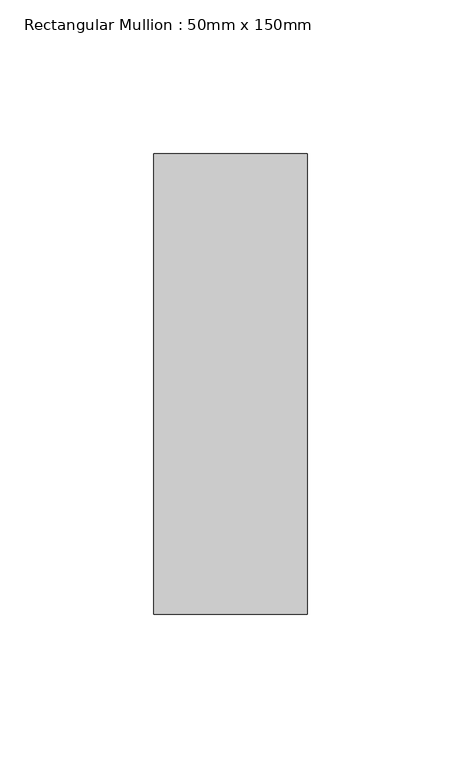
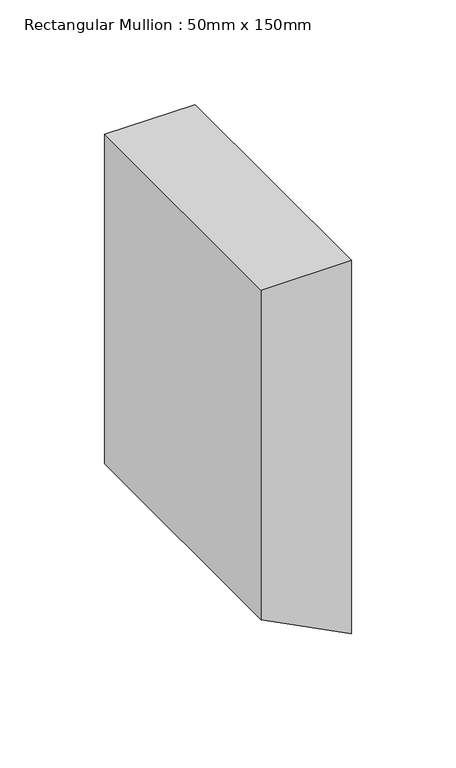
"""IFC4 building model written with IfcOpenShell, lengths in millimetres: member geometry, Rectangular Mullion : 50mm x 150mm."""

from ifc_helpers import new_model, si_unit, frame, origin, place, context, project, spatial, polyline, outline, extrude, source, transform, mapped, element, save


def rectangular_mullion_50mm_x_150mm_39d84e13(model_context):
    return source(origin(), model_context, "Body", "SweptSolid", [
        extrude(outline(polyline([(0.0, 0.0), (0.0, -50.0), (-192.289307, -50.0), (-217.9584148, 0.0), (0.0, 0.0)])), frame((0.0, -75.0, 0.0), z_axis=(0.0, 1.0, 0.0), x_axis=(0.0, 0.0, 1.0)), (0.0, 0.0, 1.0), 150.0),
    ])


if __name__ == "__main__":
    model = new_model("IFC4")
    model_context = context("Model", 3, world=origin())
    ifc_project = project(units=[si_unit("LENGTHUNIT", "METRE", prefix="MILLI")], contexts=[model_context])
    site = spatial("IfcSite", under=ifc_project)
    building = spatial("IfcBuilding", under=site)
    placement = place(None, origin())
    rectangular_mullion_50mm_x_150mm_shape = rectangular_mullion_50mm_x_150mm_39d84e13(model_context)
    element("IfcMember", 1, ObjectType="Rectangular Mullion : 50mm x 150mm", at=placement, inside=building, context=model_context, shape_type="MappedRepresentation", body=[
        mapped(rectangular_mullion_50mm_x_150mm_shape, transform((0.0, 0.0, 0.0), x_axis=(1.0, 0.0, 0.0), y_axis=(0.0, 1.0, 0.0), z_axis=(0.0, 0.0, 1.0))),
    ])
    save(model, "model.ifc")
